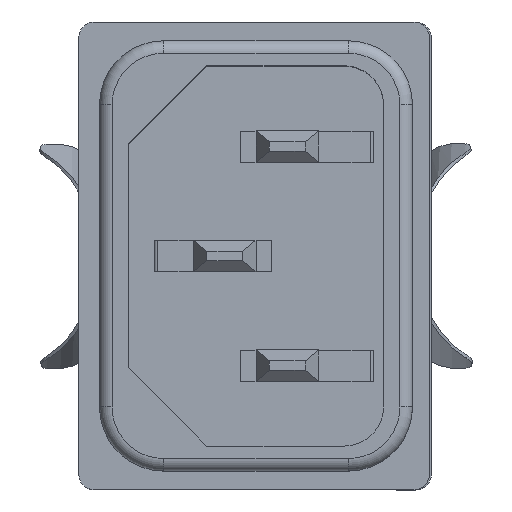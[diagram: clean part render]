
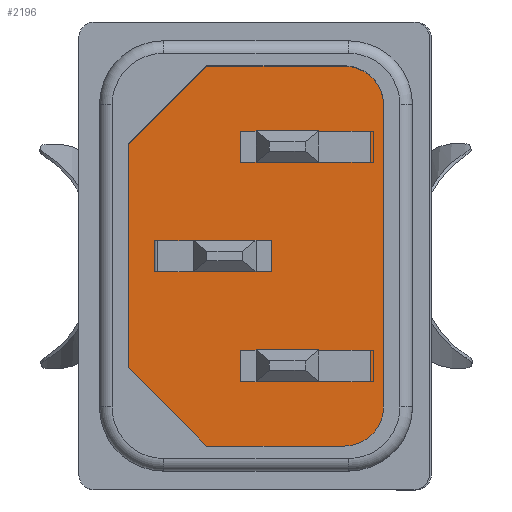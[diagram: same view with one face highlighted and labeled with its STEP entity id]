
A CAD part, top view. The second image highlights one B-rep face of the part: STEP entity #2196.
In plain terms, the highlighted planar face has unit normal (0, 0, 1).
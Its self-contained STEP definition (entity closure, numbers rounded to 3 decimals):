
#1992=CARTESIAN_POINT('',(37.418,-7.341,43.941));
#1993=VERTEX_POINT('',#1992);
#1994=CARTESIAN_POINT('',(39.918,-4.841,43.941));
#1995=VERTEX_POINT('',#1994);
#1996=CARTESIAN_POINT('',(37.418,-4.841,43.941));
#1997=DIRECTION('',(0.0,0.0,1.0));
#1998=DIRECTION('',(0.0,-1.0,0.0));
#1999=AXIS2_PLACEMENT_3D('',#1996,#1997,#1998);
#2000=CIRCLE('',#1999,2.5);
#2001=EDGE_CURVE('',#1993,#1995,#2000,.T.);
#2024=CARTESIAN_POINT('',(39.918,14.459,43.941));
#2025=VERTEX_POINT('',#2024);
#2026=CARTESIAN_POINT('',(39.918,-4.841,43.941));
#2027=DIRECTION('',(0.0,1.0,0.0));
#2028=VECTOR('',#2027,19.3);
#2029=LINE('',#2026,#2028);
#2030=EDGE_CURVE('',#1995,#2025,#2029,.T.);
#2048=CARTESIAN_POINT('',(37.418,16.959,43.941));
#2049=VERTEX_POINT('',#2048);
#2050=CARTESIAN_POINT('',(37.418,14.459,43.941));
#2051=DIRECTION('',(0.0,0.0,1.0));
#2052=DIRECTION('',(1.0,0.0,0.0));
#2053=AXIS2_PLACEMENT_3D('',#2050,#2051,#2052);
#2054=CIRCLE('',#2053,2.5);
#2055=EDGE_CURVE('',#2025,#2049,#2054,.T.);
#2073=CARTESIAN_POINT('',(28.618,16.959,43.941));
#2074=VERTEX_POINT('',#2073);
#2075=CARTESIAN_POINT('',(37.418,16.959,43.941));
#2076=DIRECTION('',(-1.0,0.0,0.0));
#2077=VECTOR('',#2076,8.8);
#2078=LINE('',#2075,#2077);
#2079=EDGE_CURVE('',#2049,#2074,#2078,.T.);
#2097=CARTESIAN_POINT('',(23.618,11.959,43.941));
#2098=VERTEX_POINT('',#2097);
#2099=CARTESIAN_POINT('',(28.618,16.959,43.941));
#2100=DIRECTION('',(-0.707,-0.707,0.));
#2101=VECTOR('',#2100,7.071);
#2102=LINE('',#2099,#2101);
#2103=EDGE_CURVE('',#2074,#2098,#2102,.T.);
#2121=CARTESIAN_POINT('',(23.618,-2.341,43.941));
#2122=VERTEX_POINT('',#2121);
#2123=CARTESIAN_POINT('',(23.618,11.959,43.941));
#2124=DIRECTION('',(0.0,-1.0,0.0));
#2125=VECTOR('',#2124,14.3);
#2126=LINE('',#2123,#2125);
#2127=EDGE_CURVE('',#2098,#2122,#2126,.T.);
#2145=CARTESIAN_POINT('',(28.618,-7.341,43.941));
#2146=VERTEX_POINT('',#2145);
#2147=CARTESIAN_POINT('',(23.618,-2.341,43.941));
#2148=DIRECTION('',(0.707,-0.707,0.));
#2149=VECTOR('',#2148,7.071);
#2150=LINE('',#2147,#2149);
#2151=EDGE_CURVE('',#2122,#2146,#2150,.T.);
#2169=CARTESIAN_POINT('',(28.618,-7.341,43.941));
#2170=DIRECTION('',(1.0,0.0,0.0));
#2171=VECTOR('',#2170,8.8);
#2172=LINE('',#2169,#2171);
#2173=EDGE_CURVE('',#2146,#1993,#2172,.T.);
#2181=CARTESIAN_POINT('',(32.307,4.809,43.941));
#2182=DIRECTION('',(0.0,0.0,-1.0));
#2183=DIRECTION('',(1.0,0.0,0.0));
#2184=AXIS2_PLACEMENT_3D('',#2181,#2182,#2183);
#2185=PLANE('',#2184);
#2186=ORIENTED_EDGE('',*,*,#2001,.T.);
#2187=ORIENTED_EDGE('',*,*,#2030,.T.);
#2188=ORIENTED_EDGE('',*,*,#2055,.T.);
#2189=ORIENTED_EDGE('',*,*,#2079,.T.);
#2190=ORIENTED_EDGE('',*,*,#2103,.T.);
#2191=ORIENTED_EDGE('',*,*,#2127,.T.);
#2192=ORIENTED_EDGE('',*,*,#2151,.T.);
#2193=ORIENTED_EDGE('',*,*,#2173,.T.);
#2194=EDGE_LOOP('',(#2186,#2187,#2188,#2189,#2190,#2191,#2192,#2193));
#2195=FACE_OUTER_BOUND('',#2194,.T.);
#2196=ADVANCED_FACE('',(#2195),#2185,.F.);
